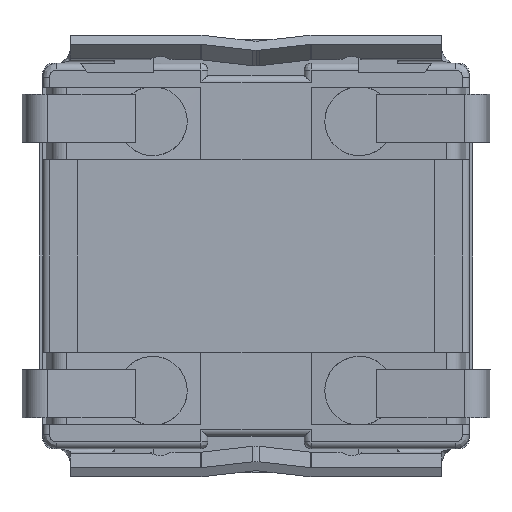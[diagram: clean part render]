
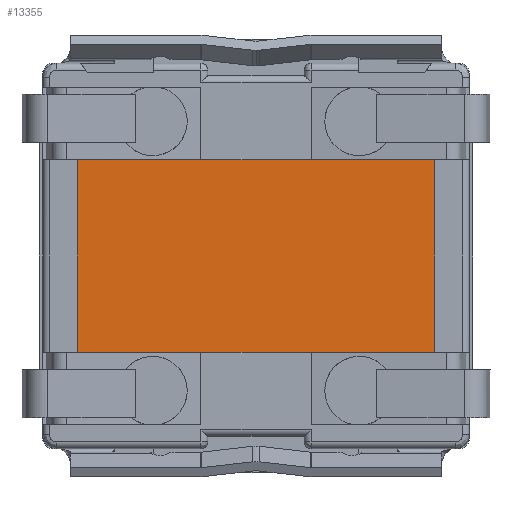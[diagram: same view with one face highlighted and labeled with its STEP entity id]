
A CAD part, front view. The second image highlights one B-rep face of the part: STEP entity #13355.
In plain terms, the highlighted planar face has unit normal (0, -1, 0).
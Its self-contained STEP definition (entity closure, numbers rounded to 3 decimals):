
#281 = LINE ( 'NONE', #1925, #16625 ) ;
#330 = EDGE_CURVE ( 'NONE', #336, #7649, #5546, .T. ) ;
#336 = VERTEX_POINT ( 'NONE', #5657 ) ;
#375 = CARTESIAN_POINT ( 'NONE',  ( 0., 2.2, -1.4 ) ) ;
#383 = CARTESIAN_POINT ( 'NONE',  ( -0.8, 2.2, -1.4 ) ) ;
#996 = VERTEX_POINT ( 'NONE', #15780 ) ;
#1088 = CARTESIAN_POINT ( 'NONE',  ( 2.6, 2.2, 0. ) ) ;
#1153 = LINE ( 'NONE', #11693, #1426 ) ;
#1426 = VECTOR ( 'NONE', #13168, 1000. ) ;
#1493 = CARTESIAN_POINT ( 'NONE',  ( 0., 2.2, 1.4 ) ) ;
#1610 = VECTOR ( 'NONE', #2706, 1000. ) ;
#1734 = LINE ( 'NONE', #375, #5889 ) ;
#1925 = CARTESIAN_POINT ( 'NONE',  ( 0., 2.2, -1.4 ) ) ;
#2526 = EDGE_LOOP ( 'NONE', ( #5393, #12182, #11538, #18330, #12802, #16661, #7627, #17673 ) ) ;
#2570 = CARTESIAN_POINT ( 'NONE',  ( 0., 2.2, -1.4 ) ) ;
#2706 = DIRECTION ( 'NONE',  ( -1., 0., 0. ) ) ;
#3186 = CARTESIAN_POINT ( 'NONE',  ( -0.8, 2.2, 1.4 ) ) ;
#3445 = VECTOR ( 'NONE', #7115, 1000. ) ;
#3962 = DIRECTION ( 'NONE',  ( 0., -1., 0. ) ) ;
#5102 = LINE ( 'NONE', #17036, #12921 ) ;
#5357 = DIRECTION ( 'NONE',  ( 0., 0., -1. ) ) ;
#5393 = ORIENTED_EDGE ( 'NONE', *, *, #8899, .T. ) ;
#5546 = LINE ( 'NONE', #1493, #3445 ) ;
#5657 = CARTESIAN_POINT ( 'NONE',  ( 2.6, 2.2, 1.4 ) ) ;
#5889 = VECTOR ( 'NONE', #7644, 1000. ) ;
#6651 = LINE ( 'NONE', #17029, #11939 ) ;
#7010 = DIRECTION ( 'NONE',  ( 0., 0., -1. ) ) ;
#7115 = DIRECTION ( 'NONE',  ( -1., 0., 0. ) ) ;
#7195 = AXIS2_PLACEMENT_3D ( 'NONE', #2570, #3962, #5357 ) ;
#7627 = ORIENTED_EDGE ( 'NONE', *, *, #17383, .F. ) ;
#7644 = DIRECTION ( 'NONE',  ( 1., 0., 0. ) ) ;
#7649 = VERTEX_POINT ( 'NONE', #8528 ) ;
#7741 = DIRECTION ( 'NONE',  ( 1., 0., 0. ) ) ;
#7844 = EDGE_CURVE ( 'NONE', #996, #8857, #1734, .T. ) ;
#8357 = VERTEX_POINT ( 'NONE', #15778 ) ;
#8528 = CARTESIAN_POINT ( 'NONE',  ( 0.8, 2.2, 1.4 ) ) ;
#8673 = EDGE_CURVE ( 'NONE', #14360, #17978, #5102, .T. ) ;
#8857 = VERTEX_POINT ( 'NONE', #18011 ) ;
#8865 = CARTESIAN_POINT ( 'NONE',  ( -2.6, 2.2, 1.4 ) ) ;
#8899 = EDGE_CURVE ( 'NONE', #7649, #14360, #17924, .T. ) ;
#9562 = FACE_OUTER_BOUND ( 'NONE', #2526, .T. ) ;
#9596 = DIRECTION ( 'NONE',  ( -1., 0., 0. ) ) ;
#9621 = VECTOR ( 'NONE', #7010, 1000. ) ;
#10478 = CARTESIAN_POINT ( 'NONE',  ( 0., 2.2, 1.4 ) ) ;
#11538 = ORIENTED_EDGE ( 'NONE', *, *, #16592, .F. ) ;
#11624 = LINE ( 'NONE', #1088, #9621 ) ;
#11693 = CARTESIAN_POINT ( 'NONE',  ( -2.6, 2.2, 0. ) ) ;
#11939 = VECTOR ( 'NONE', #12631, 1000. ) ;
#12182 = ORIENTED_EDGE ( 'NONE', *, *, #8673, .T. ) ;
#12631 = DIRECTION ( 'NONE',  ( 1., 0., 0. ) ) ;
#12802 = ORIENTED_EDGE ( 'NONE', *, *, #14922, .T. ) ;
#12921 = VECTOR ( 'NONE', #9596, 1000. ) ;
#13168 = DIRECTION ( 'NONE',  ( 0., 0., 1. ) ) ;
#13355 = ADVANCED_FACE ( 'NONE', ( #9562 ), #17002, .T. ) ;
#14360 = VERTEX_POINT ( 'NONE', #3186 ) ;
#14880 = EDGE_CURVE ( 'NONE', #8357, #15280, #281, .T. ) ;
#14922 = EDGE_CURVE ( 'NONE', #15280, #996, #6651, .T. ) ;
#15280 = VERTEX_POINT ( 'NONE', #383 ) ;
#15778 = CARTESIAN_POINT ( 'NONE',  ( -2.6, 2.2, -1.4 ) ) ;
#15780 = CARTESIAN_POINT ( 'NONE',  ( 0.8, 2.2, -1.4 ) ) ;
#16592 = EDGE_CURVE ( 'NONE', #8357, #17978, #1153, .T. ) ;
#16625 = VECTOR ( 'NONE', #7741, 1000. ) ;
#16661 = ORIENTED_EDGE ( 'NONE', *, *, #7844, .T. ) ;
#17002 = PLANE ( 'NONE',  #7195 ) ;
#17029 = CARTESIAN_POINT ( 'NONE',  ( 0., 2.2, -1.4 ) ) ;
#17036 = CARTESIAN_POINT ( 'NONE',  ( 0., 2.2, 1.4 ) ) ;
#17383 = EDGE_CURVE ( 'NONE', #336, #8857, #11624, .T. ) ;
#17673 = ORIENTED_EDGE ( 'NONE', *, *, #330, .T. ) ;
#17924 = LINE ( 'NONE', #10478, #1610 ) ;
#17978 = VERTEX_POINT ( 'NONE', #8865 ) ;
#18011 = CARTESIAN_POINT ( 'NONE',  ( 2.6, 2.2, -1.4 ) ) ;
#18330 = ORIENTED_EDGE ( 'NONE', *, *, #14880, .T. ) ;
